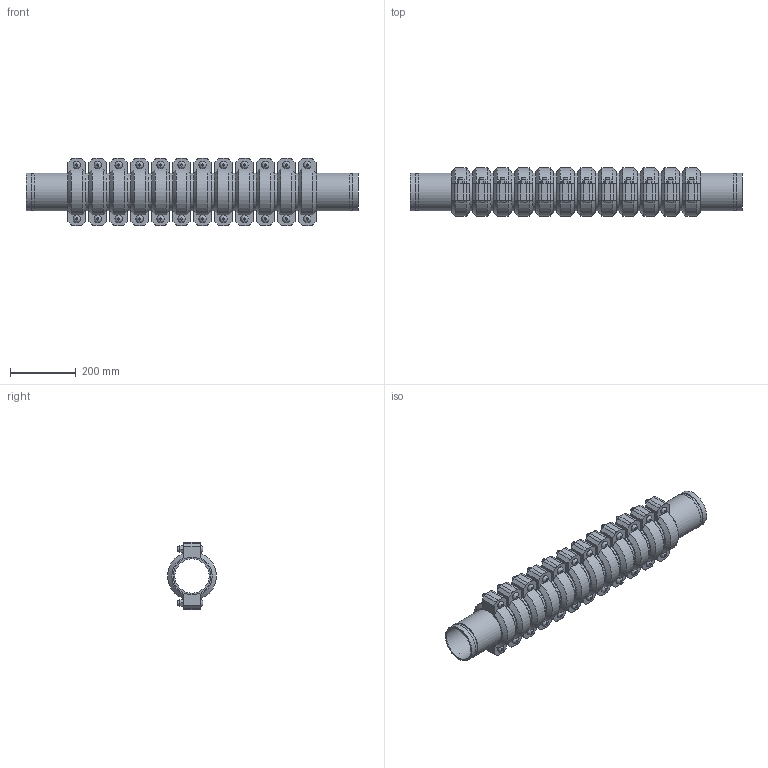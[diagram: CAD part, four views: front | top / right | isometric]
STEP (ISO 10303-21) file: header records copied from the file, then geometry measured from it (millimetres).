
FILE_DESCRIPTION(/* description */ ('VIC SS EXPANSION JOINT 12 COUPLINGS NEUTRAL STYLE 155P (OGS) (POTABLE WATER) ','CAx-IF Rec.Pracs.---Representation and Presentation of Product Manufacturing Information (PMI)---4.0---2014-10-13'),/* implementation_level */ '2;1');
FILE_NAME(/* name */ 'C:\Users\kkamble\AppData\Roaming\Autodesk\ApplicationPlugins\Victaulic.Temp\A871\Victaulic_SS_Expansion Joint_Neutral_12 Couplings_Style 155P (OGS)-Potable Water_12 Coup_Neut_4 (100).stp',/* time_stamp */ '2021-07-16T16:29:52+06:00',/* author */ ('kkamble'),/* organization */ ('Victaulic'),/* preprocessor_version */ 'ST-DEVELOPER v17.2',/* originating_system */ 'Autodesk Inventor 2019',/* authorisation */ '');
FILE_SCHEMA (('AP242_MANAGED_MODEL_BASED_3D_ENGINEERING_MIM_LF { 1 0 10303 442 1 1 4 }'));
Length unit declared in the file: inch
Products named in the file (4): 155P-04.0; Nipple-04.0; Nipple-04.0_1; 075-04.0
Assembly tree (25 placements, depth 2):
  155P-04.0
    Nipple-04.0  x2
    Nipple-04.0_1  x11
    075-04.0  x12
Bounding box: 1007.11 x 147.32 x 203.96 mm (x, y, z)
Volume: 7331019.5 mm3; surface area: 1682059.9 mm2
Topology: 25 solids, 49 shells, 840 faces, 1986 edges, 1392 vertices
Faces by surface type: plane 510, cylinder 258, cone 48, bspline 24
Full cylindrical faces by diameter (mm): 12.7 x48, 14.605 x24, 103.988 x13, 107.95 x12, 110.084 x26, 114.3 x63
Entity records: 2913 total; most frequent: CARTESIAN_POINT 509, DIRECTION 493, ORIENTED_EDGE 386, AXIS2_PLACEMENT_3D 200, EDGE_CURVE 193, VERTEX_POINT 138, EDGE_LOOP 107, LINE 93
